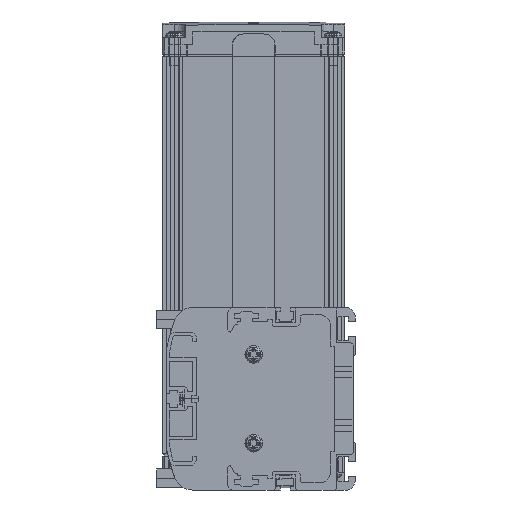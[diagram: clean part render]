
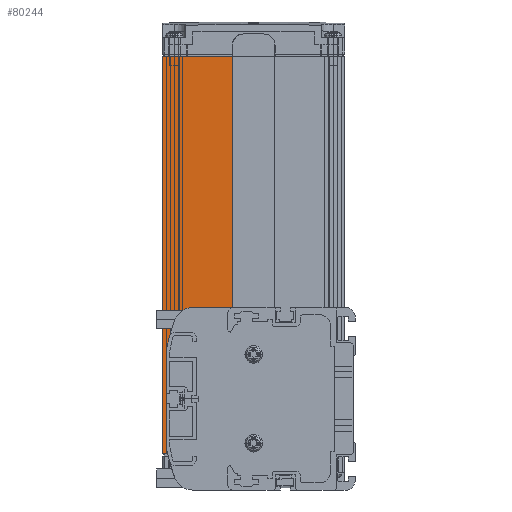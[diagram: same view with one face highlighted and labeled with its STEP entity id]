
A CAD part, left-side view. The second image highlights one B-rep face of the part: STEP entity #80244.
In plain terms, the highlighted planar face has unit normal (-1, 0, 0).
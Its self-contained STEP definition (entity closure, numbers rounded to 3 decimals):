
#78826=DIRECTION('',(0.,-1.,0.));
#78827=VECTOR('',#78826,17.9);
#78828=CARTESIAN_POINT('',(3.,70.5,27.5));
#78829=LINE('',#78828,#78827);
#78834=DIRECTION('',(0.,0.,1.));
#78835=VECTOR('',#78834,51.);
#78836=CARTESIAN_POINT('',(3.,70.5,-23.5));
#78837=LINE('',#78836,#78835);
#78842=DIRECTION('',(0.,-1.,0.));
#78843=VECTOR('',#78842,12.);
#78844=CARTESIAN_POINT('',(3.,82.5,-23.5));
#78845=LINE('',#78844,#78843);
#78846=DIRECTION('',(0.,0.,-1.));
#78847=VECTOR('',#78846,170.);
#78848=CARTESIAN_POINT('',(3.,82.5,146.5));
#78849=LINE('',#78848,#78847);
#78850=DIRECTION('',(0.,1.,0.));
#78851=VECTOR('',#78850,29.9);
#78852=CARTESIAN_POINT('',(3.,52.6,146.5));
#78853=LINE('',#78852,#78851);
#78888=DIRECTION('',(0.,0.,1.));
#78889=VECTOR('',#78888,119.);
#78890=CARTESIAN_POINT('',(3.,52.6,27.5));
#78891=LINE('',#78890,#78889);
#79045=CARTESIAN_POINT('',(3.,70.5,-23.5));
#79046=VERTEX_POINT('',#79045);
#79047=CARTESIAN_POINT('',(3.,82.5,-23.5));
#79048=VERTEX_POINT('',#79047);
#79183=CARTESIAN_POINT('',(3.,52.6,146.5));
#79184=VERTEX_POINT('',#79183);
#79185=CARTESIAN_POINT('',(3.,82.5,146.5));
#79186=VERTEX_POINT('',#79185);
#79243=CARTESIAN_POINT('',(3.,70.5,27.5));
#79244=CARTESIAN_POINT('',(3.,52.6,27.5));
#79245=VERTEX_POINT('',#79243);
#79246=VERTEX_POINT('',#79244);
#80229=CARTESIAN_POINT('',(3.,67.55,61.5));
#80230=DIRECTION('',(1.,0.,0.));
#80231=DIRECTION('',(0.,-1.,0.));
#80232=AXIS2_PLACEMENT_3D('',#80229,#80230,#80231);
#80233=PLANE('',#80232);
#80234=ORIENTED_EDGE('',*,*,#80205,.F.);
#80235=ORIENTED_EDGE('',*,*,#80222,.F.);
#80236=ORIENTED_EDGE('',*,*,#79350,.F.);
#80238=ORIENTED_EDGE('',*,*,#80237,.F.);
#80239=ORIENTED_EDGE('',*,*,#79761,.F.);
#80241=ORIENTED_EDGE('',*,*,#80240,.F.);
#80242=EDGE_LOOP('',(#80234,#80235,#80236,#80238,#80239,#80241));
#80243=FACE_OUTER_BOUND('',#80242,.F.);
#80244=ADVANCED_FACE('',(#80243),#80233,.F.);
#79350=EDGE_CURVE('',#79048,#79046,#78845,.T.);
#79761=EDGE_CURVE('',#79184,#79186,#78853,.T.);
#80205=EDGE_CURVE('',#79245,#79246,#78829,.T.);
#80222=EDGE_CURVE('',#79046,#79245,#78837,.T.);
#80237=EDGE_CURVE('',#79186,#79048,#78849,.T.);
#80240=EDGE_CURVE('',#79246,#79184,#78891,.T.);
